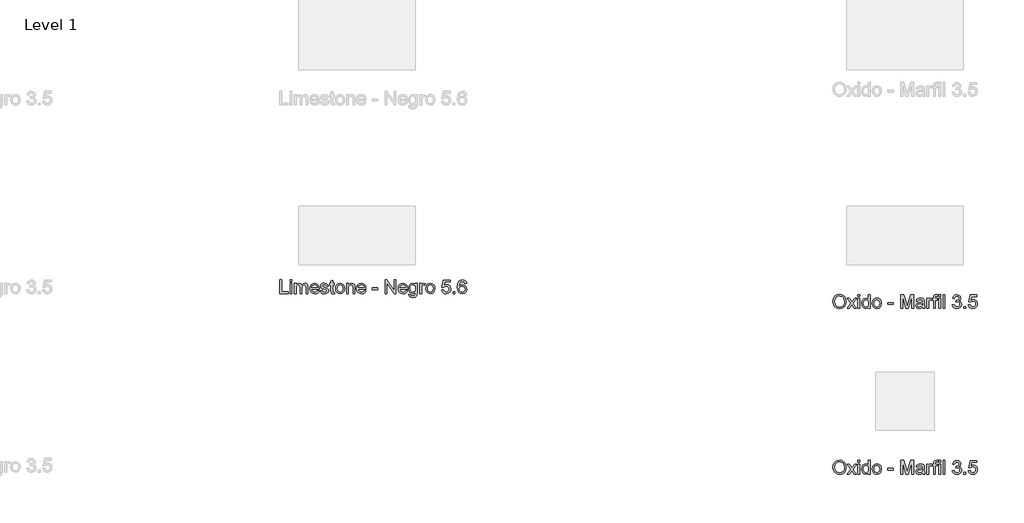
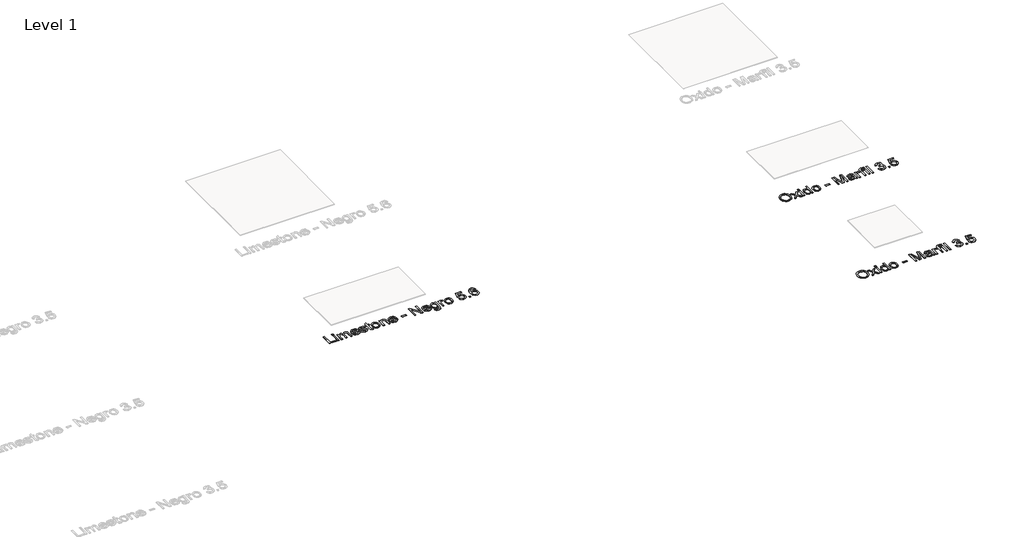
# One storey, part 28 of 80: 3 proxies.
"""IFC4 building model written with IfcOpenShell, lengths in millimetres."""

from ifc_helpers import new_model, si_unit, origin, origin_with_axes, place, context, project, spatial, polyline, outline, extrude, element, save

model = new_model("IFC4")

# Units and contexts
model_context = context("Model", 3, world=origin())
ifc_project = project(units=[si_unit("LENGTHUNIT", "METRE", prefix="MILLI")], contexts=[model_context])

# Site, building, storey
site = spatial("IfcSite", under=ifc_project)
building = spatial("IfcBuilding", under=site)
storey = spatial("IfcBuildingStorey", under=building, Name="Level 1", Elevation=0.0)

# Proxies
placement = place(None, origin())
element("IfcBuildingElementProxy", 1, Name="24\" Arial", ObjectType="24\" Arial", at=placement, inside=storey, context=model_context, shape_type="SweptSolid", body=[
    extrude(outline(polyline([(4916.0008152, -20382.6920446), (4919.9383152, -20356.5646408), (4931.7508152, -20336.7978138), (4949.7868729, -20324.35791), (4972.3950459, -20320.2112754), (4987.8926421, -20322.1583908), (5001.7892767, -20327.9997369), (5013.3277383, -20337.3242561), (5021.7508152, -20349.7208908), (5026.8998536, -20364.5910831), (5028.6161998, -20381.3362754), (5026.8097094, -20398.3050254), (5021.3902383, -20413.3843523), (5012.6570652, -20425.8026215), (5000.909469, -20434.7881985), (4987.1318248, -20440.2401215), (4972.3085075, -20442.0574292), (4956.5729306, -20440.0490158), (4942.596969, -20434.0237754), (4931.0873536, -20424.5261792), (4922.7508152, -20412.1006985), (4917.6883152, -20397.8038235), (4916.0008152, -20382.6920446)]), holes=[polyline([(4930.7700459, -20382.8362754), (4933.7231709, -20401.3194485), (4942.5825459, -20415.4035831), (4955.8986517, -20424.3170446), (4972.221969, -20427.2881985), (4988.7832671, -20424.2881985), (5002.1210075, -20415.2881985), (5010.9154786, -20400.7713715), (5013.846969, -20381.2208908), (5008.8277383, -20356.8458908), (5002.6510556, -20347.6043042), (4994.159469, -20340.7064677), (4972.4815844, -20334.9805061), (4956.5945652, -20337.7389196), (4943.0873536, -20346.01416), (4933.8493729, -20360.7365158), (4930.7700459, -20382.8362754)])]), origin_with_axes(), (0.0, 0.0, 1.0), 2.0),
    extrude(outline(polyline([(5037.846969, -20440.2112754), (5069.4046613, -20396.5958908), (5039.6931229, -20353.4420446), (5057.4623536, -20353.4420446), (5071.7988921, -20374.2112754), (5078.4911998, -20384.0189677), (5084.2892767, -20375.9997369), (5100.6161998, -20353.4420446), (5118.3854306, -20353.4420446), (5087.1738921, -20396.5958908), (5117.2315844, -20440.2112754), (5099.4623536, -20440.2112754), (5081.3758152, -20413.9901215), (5078.0585075, -20409.20166), (5055.6161998, -20440.2112754), (5037.846969, -20440.2112754)])), origin_with_axes(), (0.0, 0.0, 1.0), 2.0),
    extrude(outline(polyline([(5130.1546613, -20336.82666), (5130.1546613, -20322.0574292), (5144.9238921, -20322.0574292), (5144.9238921, -20336.82666), (5130.1546613, -20336.82666)])), origin_with_axes(), (0.0, 0.0, 1.0), 2.0),
    extrude(outline(polyline([(5130.1546613, -20440.2112754), (5130.1546613, -20353.4420446), (5144.9238921, -20353.4420446), (5144.9238921, -20440.2112754), (5130.1546613, -20440.2112754)])), origin_with_axes(), (0.0, 0.0, 1.0), 2.0),
    extrude(outline(polyline([(5220.6161998, -20440.2112754), (5220.6161998, -20426.2785831), (5210.8445652, -20438.1127177), (5197.3373536, -20442.0574292), (5179.0488921, -20436.3458908), (5166.1258152, -20420.4083908), (5161.5392767, -20396.9131985), (5165.7652383, -20373.4035831), (5171.0440844, -20364.0790638), (5178.4286998, -20357.2208908), (5197.2796613, -20351.5958908), (5210.8950459, -20355.6199292), (5220.6161998, -20366.07666), (5220.6161998, -20322.0574292), (5235.3854306, -20322.0574292), (5235.3854306, -20440.2112754), (5220.6161998, -20440.2112754)]), holes=[polyline([(5176.3085075, -20396.8555061), (5177.9743729, -20410.2148811), (5182.971969, -20419.7160831), (5190.2339883, -20425.3951696), (5198.6931229, -20427.2881985), (5207.1486517, -20425.4817081), (5214.2267767, -20420.0622369), (5219.018844, -20410.9288235), (5220.6161998, -20397.9805061), (5218.9899979, -20383.8242561), (5214.1113921, -20374.0093523), (5206.8529786, -20368.2761792), (5198.0873536, -20366.3651215), (5189.5416806, -20368.2004581), (5182.5392767, -20373.7064677), (5177.8661998, -20383.1644004), (5176.3085075, -20396.8555061)])]), origin_with_axes(), (0.0, 0.0, 1.0), 2.0),
    extrude(outline(polyline([(5253.846969, -20396.82666), (5257.0416806, -20375.9059869), (5266.6258152, -20361.20166), (5278.4671613, -20353.9973331), (5292.6450459, -20351.5958908), (5308.1606709, -20354.5201696), (5320.5536998, -20363.2930061), (5328.6774979, -20377.2220927), (5331.3854306, -20395.6151215), (5326.596969, -20421.8939677), (5312.6498536, -20436.76416), (5292.6450459, -20442.0574292), (5276.9419209, -20439.1439677), (5264.5633152, -20430.4035831), (5256.5260556, -20416.1824292), (5253.846969, -20396.82666)]), holes=[polyline([(5268.6161998, -20396.7978138), (5270.3253344, -20410.1644004), (5275.4527383, -20419.6872369), (5283.1690844, -20425.3879581), (5292.6450459, -20427.2881985), (5302.0777383, -20425.3771408), (5309.7796613, -20419.6439677), (5314.9070652, -20409.9949292), (5316.6161998, -20396.3362754), (5314.8962479, -20383.3591119), (5309.7363921, -20373.9660831), (5302.0236517, -20368.2653619), (5292.6450459, -20366.3651215), (5283.1690844, -20368.2581504), (5275.4527383, -20373.9372369), (5270.3253344, -20383.4384388), (5268.6161998, -20396.7978138)])]), origin_with_axes(), (0.0, 0.0, 1.0), 2.0),
    extrude(outline(polyline([(5386.7700459, -20405.1343523), (5386.7700459, -20390.3651215), (5432.9238921, -20390.3651215), (5432.9238921, -20405.1343523), (5386.7700459, -20405.1343523)])), origin_with_axes(), (0.0, 0.0, 1.0), 2.0),
    extrude(outline(polyline([(5497.5392767, -20440.2112754), (5497.5392767, -20322.0574292), (5522.9527383, -20322.0574292), (5547.1258152, -20405.3362754), (5552.0008152, -20422.7305061), (5557.2796613, -20403.8939677), (5581.0488921, -20322.0574292), (5606.4623536, -20322.0574292), (5606.4623536, -20440.2112754), (5591.6931229, -20440.2112754), (5591.6931229, -20336.82666), (5562.0104306, -20440.2112754), (5541.9911998, -20440.2112754), (5512.3085075, -20336.82666), (5512.3085075, -20440.2112754), (5497.5392767, -20440.2112754)])), origin_with_axes(), (0.0, 0.0, 1.0), 2.0),
    extrude(outline(polyline([(5685.846969, -20429.1343523), (5671.5248536, -20439.1439677), (5655.7027383, -20442.0574292), (5643.3601902, -20440.3050254), (5634.2556229, -20435.0478138), (5628.6414402, -20427.0646408), (5626.7700459, -20417.1343523), (5629.596969, -20405.45166), (5637.0248536, -20396.9708908), (5647.3661998, -20392.1247369), (5660.1450459, -20389.9035831), (5685.7604306, -20384.82666), (5685.846969, -20381.5381985), (5681.7796613, -20370.6343523), (5665.4527383, -20366.3651215), (5650.5104306, -20369.2064677), (5643.3854306, -20379.2881985), (5628.6161998, -20377.4420446), (5635.0056229, -20363.0189677), (5647.8710075, -20354.5670446), (5667.3565844, -20351.5958908), (5685.2556229, -20354.2208908), (5695.3661998, -20360.8122369), (5699.8950459, -20370.8362754), (5700.6161998, -20383.7593523), (5700.6161998, -20402.1343523), (5701.3661998, -20427.7930061), (5704.3085075, -20440.2112754), (5689.5392767, -20440.2112754), (5685.846969, -20429.1343523)]), holes=[polyline([(5685.846969, -20399.5958908), (5662.0200459, -20404.1247369), (5649.3133152, -20406.5189677), (5643.5585075, -20410.4131985), (5641.5392767, -20416.0958908), (5645.9383152, -20424.0862754), (5658.846969, -20427.2881985), (5673.7892767, -20423.7545446), (5683.4238921, -20415.20166), (5685.7604306, -20403.7785831), (5685.846969, -20399.5958908)])]), origin_with_axes(), (0.0, 0.0, 1.0), 2.0),
    extrude(outline(polyline([(5720.9238921, -20440.2112754), (5720.9238921, -20353.4420446), (5733.846969, -20353.4420446), (5733.846969, -20366.2785831), (5743.0200459, -20354.45166), (5752.2508152, -20351.5958908), (5767.0777383, -20356.1535831), (5762.1450459, -20369.3939677), (5751.7604306, -20366.3651215), (5743.409469, -20369.2785831), (5738.0873536, -20377.3555061), (5735.6931229, -20394.6055061), (5735.6931229, -20440.2112754), (5720.9238921, -20440.2112754)])), origin_with_axes(), (0.0, 0.0, 1.0), 2.0),
    extrude(outline(polyline([(5780.0008152, -20440.2112754), (5780.0008152, -20368.2112754), (5767.0777383, -20368.2112754), (5767.0777383, -20353.4420446), (5780.0008152, -20353.4420446), (5780.0008152, -20344.70166), (5781.5585075, -20332.3843523), (5789.1161998, -20323.5862754), (5804.0008152, -20320.2112754), (5817.471969, -20321.82666), (5815.3085075, -20335.6728138), (5806.7988921, -20334.9805061), (5797.4960075, -20337.4324292), (5794.7700459, -20346.57666), (5794.7700459, -20353.4420446), (5811.3854306, -20353.4420446), (5811.3854306, -20368.2112754), (5794.7700459, -20368.2112754), (5794.7700459, -20440.2112754), (5780.0008152, -20440.2112754)])), origin_with_axes(), (0.0, 0.0, 1.0), 2.0),
    extrude(outline(polyline([(5824.3085075, -20336.82666), (5824.3085075, -20322.0574292), (5839.0777383, -20322.0574292), (5839.0777383, -20336.82666), (5824.3085075, -20336.82666)])), origin_with_axes(), (0.0, 0.0, 1.0), 2.0),
    extrude(outline(polyline([(5824.3085075, -20440.2112754), (5824.3085075, -20353.4420446), (5839.0777383, -20353.4420446), (5839.0777383, -20440.2112754), (5824.3085075, -20440.2112754)])), origin_with_axes(), (0.0, 0.0, 1.0), 2.0),
    extrude(outline(polyline([(5861.2315844, -20440.2112754), (5861.2315844, -20322.0574292), (5876.0008152, -20322.0574292), (5876.0008152, -20440.2112754), (5861.2315844, -20440.2112754)])), origin_with_axes(), (0.0, 0.0, 1.0), 2.0),
    extrude(outline(polyline([(5940.6161998, -20408.82666), (5955.3854306, -20406.9805061), (5963.534469, -20422.5285831), (5978.7796613, -20427.2881985), (5988.9046613, -20425.6511792), (5996.721969, -20420.7401215), (6001.7195652, -20413.4131985), (6003.3854306, -20404.5285831), (6001.7339883, -20396.0946888), (5996.7796613, -20389.2545446), (5989.2796613, -20384.7220927), (5979.9911998, -20383.2112754), (5969.6354306, -20384.82666), (5971.2796613, -20370.0574292), (5973.6450459, -20370.2305061), (5990.4046613, -20365.9901215), (5995.9863921, -20360.6103138), (5997.846969, -20352.95166), (5992.4527383, -20341.3987754), (5978.5488921, -20336.82666), (5964.471969, -20341.4420446), (5957.2315844, -20355.2881985), (5942.4623536, -20353.4420446), (5946.8109113, -20340.1800254), (5954.5488921, -20330.2785831), (5965.1354306, -20324.1127177), (5978.0296613, -20322.0574292), (5995.8421613, -20326.1103138), (6008.3036998, -20337.1872369), (6012.6161998, -20352.0862754), (6008.5200459, -20365.70166), (5996.4046613, -20375.4805061), (6005.6498536, -20379.2160831), (6012.5008152, -20385.57666), (6016.7411998, -20394.2160831), (6018.1546613, -20404.7881985), (6015.3277383, -20419.1824292), (6006.846969, -20431.2112754), (5994.0464883, -20439.3458908), (5978.2604306, -20442.0574292), (5963.9815844, -20439.7425254), (5952.3565844, -20432.7978138), (5944.2724498, -20422.1752177), (5940.6161998, -20408.82666)])), origin_with_axes(), (0.0, 0.0, 1.0), 2.0),
    extrude(outline(polyline([(6038.4623536, -20440.2112754), (6038.4623536, -20425.4420446), (6053.2315844, -20425.4420446), (6053.2315844, -20440.2112754), (6038.4623536, -20440.2112754)])), origin_with_axes(), (0.0, 0.0, 1.0), 2.0),
    extrude(outline(polyline([(6077.2315844, -20408.82666), (6092.0008152, -20406.9805061), (6099.4431229, -20422.1968523), (6114.8758152, -20427.2881985), (6125.4623536, -20425.5177658), (6133.3950459, -20420.2064677), (6138.3493729, -20411.967285), (6140.0008152, -20401.4131985), (6138.4539402, -20391.4756985), (6133.8133152, -20383.8747369), (6126.0428825, -20379.0502177), (6115.1065844, -20377.4420446), (6102.1402383, -20380.0093523), (6093.846969, -20386.6728138), (6079.0777383, -20384.82666), (6092.0008152, -20323.9035831), (6149.2315844, -20323.9035831), (6149.2315844, -20338.6728138), (6103.9431229, -20338.6728138), (6097.6258152, -20371.2112754), (6108.1762959, -20364.8074292), (6119.2315844, -20362.6728138), (6133.0308633, -20365.3194485), (6144.4863921, -20373.2593523), (6152.1991325, -20385.3603138), (6154.7700459, -20400.4901215), (6152.4551421, -20415.2593523), (6145.5104306, -20427.8939677), (6132.2123536, -20438.5165638), (6114.8181229, -20442.0574292), (6100.3121133, -20439.7821888), (6088.7556229, -20432.9564677), (6080.8337479, -20422.373535), (6077.2315844, -20408.82666)])), origin_with_axes(), (0.0, 0.0, 1.0), 2.0),
])
element("IfcBuildingElementProxy", 2, Name="24\" Arial", ObjectType="24\" Arial", at=placement, inside=storey, context=model_context, shape_type="SweptSolid", body=[
    extrude(outline(polyline([(4916.0008152, -21804.2596438), (4919.9383152, -21778.1322399), (4931.7508152, -21758.365413), (4949.7868729, -21745.9255092), (4972.3950459, -21741.7788746), (4987.8926421, -21743.7259899), (5001.7892767, -21749.5673361), (5013.3277383, -21758.8918553), (5021.7508152, -21771.2884899), (5026.8998536, -21786.1586823), (5028.6161998, -21802.9038746), (5026.8097094, -21819.8726246), (5021.3902383, -21834.9519515), (5012.6570652, -21847.3702207), (5000.909469, -21856.3557976), (4987.1318248, -21861.8077207), (4972.3085075, -21863.6250284), (4956.5729306, -21861.6166149), (4942.596969, -21855.5913746), (4931.0873536, -21846.0937784), (4922.7508152, -21833.6682976), (4917.6883152, -21819.3714226), (4916.0008152, -21804.2596438)]), holes=[polyline([(4930.7700459, -21804.4038746), (4933.7231709, -21822.8870476), (4942.5825459, -21836.9711823), (4955.8986517, -21845.8846438), (4972.221969, -21848.8557976), (4988.7832671, -21845.8557976), (5002.1210075, -21836.8557976), (5010.9154786, -21822.3389707), (5013.846969, -21802.7884899), (5008.8277383, -21778.4134899), (5002.6510556, -21769.1719034), (4994.159469, -21762.2740669), (4972.4815844, -21756.5481053), (4956.5945652, -21759.3065188), (4943.0873536, -21767.5817592), (4933.8493729, -21782.3041149), (4930.7700459, -21804.4038746)])]), origin_with_axes(), (0.0, 0.0, 1.0), 2.0),
    extrude(outline(polyline([(5037.846969, -21861.7788746), (5069.4046613, -21818.1634899), (5039.6931229, -21775.0096438), (5057.4623536, -21775.0096438), (5071.7988921, -21795.7788746), (5078.4911998, -21805.5865669), (5084.2892767, -21797.5673361), (5100.6161998, -21775.0096438), (5118.3854306, -21775.0096438), (5087.1738921, -21818.1634899), (5117.2315844, -21861.7788746), (5099.4623536, -21861.7788746), (5081.3758152, -21835.5577207), (5078.0585075, -21830.7692592), (5055.6161998, -21861.7788746), (5037.846969, -21861.7788746)])), origin_with_axes(), (0.0, 0.0, 1.0), 2.0),
    extrude(outline(polyline([(5130.1546613, -21758.3942592), (5130.1546613, -21743.6250284), (5144.9238921, -21743.6250284), (5144.9238921, -21758.3942592), (5130.1546613, -21758.3942592)])), origin_with_axes(), (0.0, 0.0, 1.0), 2.0),
    extrude(outline(polyline([(5130.1546613, -21861.7788746), (5130.1546613, -21775.0096438), (5144.9238921, -21775.0096438), (5144.9238921, -21861.7788746), (5130.1546613, -21861.7788746)])), origin_with_axes(), (0.0, 0.0, 1.0), 2.0),
    extrude(outline(polyline([(5220.6161998, -21861.7788746), (5220.6161998, -21847.8461823), (5210.8445652, -21859.6803169), (5197.3373536, -21863.6250284), (5179.0488921, -21857.9134899), (5166.1258152, -21841.9759899), (5161.5392767, -21818.4807976), (5165.7652383, -21794.9711823), (5171.0440844, -21785.646663), (5178.4286998, -21778.7884899), (5197.2796613, -21773.1634899), (5210.8950459, -21777.1875284), (5220.6161998, -21787.6442592), (5220.6161998, -21743.6250284), (5235.3854306, -21743.6250284), (5235.3854306, -21861.7788746), (5220.6161998, -21861.7788746)]), holes=[polyline([(5176.3085075, -21818.4231053), (5177.9743729, -21831.7824803), (5182.971969, -21841.2836823), (5190.2339883, -21846.9627688), (5198.6931229, -21848.8557976), (5207.1486517, -21847.0493073), (5214.2267767, -21841.6298361), (5219.018844, -21832.4964226), (5220.6161998, -21819.5481053), (5218.9899979, -21805.3918553), (5214.1113921, -21795.5769515), (5206.8529786, -21789.8437784), (5198.0873536, -21787.9327207), (5189.5416806, -21789.7680573), (5182.5392767, -21795.2740669), (5177.8661998, -21804.7319996), (5176.3085075, -21818.4231053)])]), origin_with_axes(), (0.0, 0.0, 1.0), 2.0),
    extrude(outline(polyline([(5253.846969, -21818.3942592), (5257.0416806, -21797.4735861), (5266.6258152, -21782.7692592), (5278.4671613, -21775.5649323), (5292.6450459, -21773.1634899), (5308.1606709, -21776.0877688), (5320.5536998, -21784.8606053), (5328.6774979, -21798.7896919), (5331.3854306, -21817.1827207), (5326.596969, -21843.4615669), (5312.6498536, -21858.3317592), (5292.6450459, -21863.6250284), (5276.9419209, -21860.7115669), (5264.5633152, -21851.9711823), (5256.5260556, -21837.7500284), (5253.846969, -21818.3942592)]), holes=[polyline([(5268.6161998, -21818.365413), (5270.3253344, -21831.7319996), (5275.4527383, -21841.2548361), (5283.1690844, -21846.9555573), (5292.6450459, -21848.8557976), (5302.0777383, -21846.9447399), (5309.7796613, -21841.2115669), (5314.9070652, -21831.5625284), (5316.6161998, -21817.9038746), (5314.8962479, -21804.9267111), (5309.7363921, -21795.5336823), (5302.0236517, -21789.8329611), (5292.6450459, -21787.9327207), (5283.1690844, -21789.8257496), (5275.4527383, -21795.5048361), (5270.3253344, -21805.006038), (5268.6161998, -21818.365413)])]), origin_with_axes(), (0.0, 0.0, 1.0), 2.0),
    extrude(outline(polyline([(5386.7700459, -21826.7019515), (5386.7700459, -21811.9327207), (5432.9238921, -21811.9327207), (5432.9238921, -21826.7019515), (5386.7700459, -21826.7019515)])), origin_with_axes(), (0.0, 0.0, 1.0), 2.0),
    extrude(outline(polyline([(5497.5392767, -21861.7788746), (5497.5392767, -21743.6250284), (5522.9527383, -21743.6250284), (5547.1258152, -21826.9038746), (5552.0008152, -21844.2981053), (5557.2796613, -21825.4615669), (5581.0488921, -21743.6250284), (5606.4623536, -21743.6250284), (5606.4623536, -21861.7788746), (5591.6931229, -21861.7788746), (5591.6931229, -21758.3942592), (5562.0104306, -21861.7788746), (5541.9911998, -21861.7788746), (5512.3085075, -21758.3942592), (5512.3085075, -21861.7788746), (5497.5392767, -21861.7788746)])), origin_with_axes(), (0.0, 0.0, 1.0), 2.0),
    extrude(outline(polyline([(5685.846969, -21850.7019515), (5671.5248536, -21860.7115669), (5655.7027383, -21863.6250284), (5643.3601902, -21861.8726246), (5634.2556229, -21856.615413), (5628.6414402, -21848.6322399), (5626.7700459, -21838.7019515), (5629.596969, -21827.0192592), (5637.0248536, -21818.5384899), (5647.3661998, -21813.6923361), (5660.1450459, -21811.4711823), (5685.7604306, -21806.3942592), (5685.846969, -21803.1057976), (5681.7796613, -21792.2019515), (5665.4527383, -21787.9327207), (5650.5104306, -21790.7740669), (5643.3854306, -21800.8557976), (5628.6161998, -21799.0096438), (5635.0056229, -21784.5865669), (5647.8710075, -21776.1346438), (5667.3565844, -21773.1634899), (5685.2556229, -21775.7884899), (5695.3661998, -21782.3798361), (5699.8950459, -21792.4038746), (5700.6161998, -21805.3269515), (5700.6161998, -21823.7019515), (5701.3661998, -21849.3606053), (5704.3085075, -21861.7788746), (5689.5392767, -21861.7788746), (5685.846969, -21850.7019515)]), holes=[polyline([(5685.846969, -21821.1634899), (5662.0200459, -21825.6923361), (5649.3133152, -21828.0865669), (5643.5585075, -21831.9807976), (5641.5392767, -21837.6634899), (5645.9383152, -21845.6538746), (5658.846969, -21848.8557976), (5673.7892767, -21845.3221438), (5683.4238921, -21836.7692592), (5685.7604306, -21825.3461823), (5685.846969, -21821.1634899)])]), origin_with_axes(), (0.0, 0.0, 1.0), 2.0),
    extrude(outline(polyline([(5720.9238921, -21861.7788746), (5720.9238921, -21775.0096438), (5733.846969, -21775.0096438), (5733.846969, -21787.8461823), (5743.0200459, -21776.0192592), (5752.2508152, -21773.1634899), (5767.0777383, -21777.7211823), (5762.1450459, -21790.9615669), (5751.7604306, -21787.9327207), (5743.409469, -21790.8461823), (5738.0873536, -21798.9231053), (5735.6931229, -21816.1731053), (5735.6931229, -21861.7788746), (5720.9238921, -21861.7788746)])), origin_with_axes(), (0.0, 0.0, 1.0), 2.0),
    extrude(outline(polyline([(5780.0008152, -21861.7788746), (5780.0008152, -21789.7788746), (5767.0777383, -21789.7788746), (5767.0777383, -21775.0096438), (5780.0008152, -21775.0096438), (5780.0008152, -21766.2692592), (5781.5585075, -21753.9519515), (5789.1161998, -21745.1538746), (5804.0008152, -21741.7788746), (5817.471969, -21743.3942592), (5815.3085075, -21757.240413), (5806.7988921, -21756.5481053), (5797.4960075, -21759.0000284), (5794.7700459, -21768.1442592), (5794.7700459, -21775.0096438), (5811.3854306, -21775.0096438), (5811.3854306, -21789.7788746), (5794.7700459, -21789.7788746), (5794.7700459, -21861.7788746), (5780.0008152, -21861.7788746)])), origin_with_axes(), (0.0, 0.0, 1.0), 2.0),
    extrude(outline(polyline([(5824.3085075, -21758.3942592), (5824.3085075, -21743.6250284), (5839.0777383, -21743.6250284), (5839.0777383, -21758.3942592), (5824.3085075, -21758.3942592)])), origin_with_axes(), (0.0, 0.0, 1.0), 2.0),
    extrude(outline(polyline([(5824.3085075, -21861.7788746), (5824.3085075, -21775.0096438), (5839.0777383, -21775.0096438), (5839.0777383, -21861.7788746), (5824.3085075, -21861.7788746)])), origin_with_axes(), (0.0, 0.0, 1.0), 2.0),
    extrude(outline(polyline([(5861.2315844, -21861.7788746), (5861.2315844, -21743.6250284), (5876.0008152, -21743.6250284), (5876.0008152, -21861.7788746), (5861.2315844, -21861.7788746)])), origin_with_axes(), (0.0, 0.0, 1.0), 2.0),
    extrude(outline(polyline([(5940.6161998, -21830.3942592), (5955.3854306, -21828.5481053), (5963.534469, -21844.0961823), (5978.7796613, -21848.8557976), (5988.9046613, -21847.2187784), (5996.721969, -21842.3077207), (6001.7195652, -21834.9807976), (6003.3854306, -21826.0961823), (6001.7339883, -21817.662288), (5996.7796613, -21810.8221438), (5989.2796613, -21806.2896919), (5979.9911998, -21804.7788746), (5969.6354306, -21806.3942592), (5971.2796613, -21791.6250284), (5973.6450459, -21791.7981053), (5990.4046613, -21787.5577207), (5995.9863921, -21782.177913), (5997.846969, -21774.5192592), (5992.4527383, -21762.9663746), (5978.5488921, -21758.3942592), (5964.471969, -21763.0096438), (5957.2315844, -21776.8557976), (5942.4623536, -21775.0096438), (5946.8109113, -21761.7476246), (5954.5488921, -21751.8461823), (5965.1354306, -21745.6803169), (5978.0296613, -21743.6250284), (5995.8421613, -21747.677913), (6008.3036998, -21758.7548361), (6012.6161998, -21773.6538746), (6008.5200459, -21787.2692592), (5996.4046613, -21797.0481053), (6005.6498536, -21800.7836823), (6012.5008152, -21807.1442592), (6016.7411998, -21815.7836823), (6018.1546613, -21826.3557976), (6015.3277383, -21840.7500284), (6006.846969, -21852.7788746), (5994.0464883, -21860.9134899), (5978.2604306, -21863.6250284), (5963.9815844, -21861.3101246), (5952.3565844, -21854.365413), (5944.2724498, -21843.7428169), (5940.6161998, -21830.3942592)])), origin_with_axes(), (0.0, 0.0, 1.0), 2.0),
    extrude(outline(polyline([(6038.4623536, -21861.7788746), (6038.4623536, -21847.0096438), (6053.2315844, -21847.0096438), (6053.2315844, -21861.7788746), (6038.4623536, -21861.7788746)])), origin_with_axes(), (0.0, 0.0, 1.0), 2.0),
    extrude(outline(polyline([(6077.2315844, -21830.3942592), (6092.0008152, -21828.5481053), (6099.4431229, -21843.7644515), (6114.8758152, -21848.8557976), (6125.4623536, -21847.0853649), (6133.3950459, -21841.7740669), (6138.3493729, -21833.5348842), (6140.0008152, -21822.9807976), (6138.4539402, -21813.0432976), (6133.8133152, -21805.4423361), (6126.0428825, -21800.6178169), (6115.1065844, -21799.0096438), (6102.1402383, -21801.5769515), (6093.846969, -21808.240413), (6079.0777383, -21806.3942592), (6092.0008152, -21745.4711823), (6149.2315844, -21745.4711823), (6149.2315844, -21760.240413), (6103.9431229, -21760.240413), (6097.6258152, -21792.7788746), (6108.1762959, -21786.3750284), (6119.2315844, -21784.240413), (6133.0308633, -21786.8870476), (6144.4863921, -21794.8269515), (6152.1991325, -21806.927913), (6154.7700459, -21822.0577207), (6152.4551421, -21836.8269515), (6145.5104306, -21849.4615669), (6132.2123536, -21860.084163), (6114.8181229, -21863.6250284), (6100.3121133, -21861.349788), (6088.7556229, -21854.5240669), (6080.8337479, -21843.9411342), (6077.2315844, -21830.3942592)])), origin_with_axes(), (0.0, 0.0, 1.0), 2.0),
])
element("IfcBuildingElementProxy", 3, Name="24\" Arial", ObjectType="24\" Arial", at=placement, inside=storey, context=model_context, shape_type="SweptSolid", body=[
    extrude(outline(polyline([(173.5392767, -20313.2188289), (173.5392767, -20195.0649827), (188.3085075, -20195.0649827), (188.3085075, -20298.4495981), (247.3854306, -20298.4495981), (247.3854306, -20313.2188289), (173.5392767, -20313.2188289)])), origin_with_axes(), (0.0, 0.0, 1.0), 2.0),
    extrude(outline(polyline([(262.1546613, -20209.8342135), (262.1546613, -20195.0649827), (276.9238921, -20195.0649827), (276.9238921, -20209.8342135), (262.1546613, -20209.8342135)])), origin_with_axes(), (0.0, 0.0, 1.0), 2.0),
    extrude(outline(polyline([(262.1546613, -20313.2188289), (262.1546613, -20226.4495981), (276.9238921, -20226.4495981), (276.9238921, -20313.2188289), (262.1546613, -20313.2188289)])), origin_with_axes(), (0.0, 0.0, 1.0), 2.0),
    extrude(outline(polyline([(299.0777383, -20313.2188289), (299.0777383, -20226.4495981), (313.846969, -20226.4495981), (313.846969, -20240.7284443), (324.0008152, -20229.0313289), (338.4527383, -20224.6034443), (353.2508152, -20229.1178673), (361.3854306, -20241.7669058), (372.909469, -20228.8943097), (387.4623536, -20224.6034443), (398.5645171, -20226.3883), (406.7748536, -20231.7428673), (411.8481709, -20240.811377), (413.5392767, -20253.7380597), (413.5392767, -20313.2188289), (398.7700459, -20313.2188289), (398.7700459, -20260.0842135), (397.3998536, -20247.7524827), (392.4383152, -20241.6803673), (384.0008152, -20239.372675), (375.9996133, -20240.8510404), (369.4767767, -20245.2861366), (365.1390363, -20252.9808481), (363.6931229, -20264.2380597), (363.6931229, -20313.2188289), (348.9238921, -20313.2188289), (348.9238921, -20258.4399827), (345.5056229, -20244.1322904), (334.2988921, -20239.372675), (323.3661998, -20242.545752), (316.096969, -20251.8342135), (313.846969, -20269.4592135), (313.846969, -20313.2188289), (299.0777383, -20313.2188289)])), origin_with_axes(), (0.0, 0.0, 1.0), 2.0),
    extrude(outline(polyline([(496.4431229, -20287.372675), (510.9238921, -20289.2188289), (505.706344, -20300.1298866), (497.3806229, -20308.2861366), (486.1342286, -20313.3702712), (472.1546613, -20315.0649827), (454.8253344, -20312.1407039), (441.4911998, -20303.3678673), (432.9887959, -20289.3161847), (430.1546613, -20270.5553673), (433.0176421, -20251.1635404), (441.6065844, -20236.6611366), (454.7604306, -20227.6178673), (471.3181229, -20224.6034443), (487.3601902, -20227.6106558), (500.1786998, -20236.6322904), (508.5837479, -20251.1058481), (511.3854306, -20270.4688289), (511.2988921, -20274.4495981), (444.9238921, -20274.4495981), (447.4803825, -20285.5048866), (453.4190844, -20293.6322904), (461.9899979, -20298.6298866), (472.4431229, -20300.295752), (486.9238921, -20297.2092135), (496.4431229, -20287.372675)]), holes=[polyline([(444.9238921, -20259.6803673), (496.6161998, -20259.6803673), (490.7027383, -20246.295752), (482.0921613, -20241.1034443), (471.2604306, -20239.372675), (453.0729306, -20244.8967135), (447.3505748, -20251.3546462), (444.9238921, -20259.6803673)])]), origin_with_axes(), (0.0, 0.0, 1.0), 2.0),
    extrude(outline(polyline([(520.6161998, -20287.372675), (535.3854306, -20285.5265212), (542.221969, -20296.4880597), (557.8854306, -20300.295752), (572.9431229, -20296.8053673), (577.846969, -20288.6130597), (572.9142767, -20281.9784443), (557.7123536, -20277.7669058), (535.471969, -20270.5409443), (525.7652383, -20262.1034443), (522.4623536, -20250.1899827), (525.1161998, -20239.185175), (532.3565844, -20230.7765212), (541.7460075, -20226.4063289), (554.4527383, -20224.6034443), (572.4238921, -20227.5024827), (583.846969, -20235.3486366), (588.9238921, -20248.6034443), (574.1546613, -20250.4495981), (568.6017767, -20242.3005597), (555.6065844, -20239.372675), (541.471969, -20242.170752), (537.2315844, -20248.6899827), (538.9911998, -20252.9880597), (544.5008152, -20256.247675), (557.221969, -20259.3919058), (578.8998536, -20266.3438289), (588.9671613, -20274.2188289), (592.6161998, -20287.0553673), (588.3325459, -20301.1899827), (575.971969, -20311.4447904), (557.6835075, -20315.0649827), (542.7916806, -20313.3197904), (531.9238921, -20308.0842135), (524.6690844, -20299.4159443), (520.6161998, -20287.372675)])), origin_with_axes(), (0.0, 0.0, 1.0), 2.0),
    extrude(outline(polyline([(640.6161998, -20300.9015212), (642.4623536, -20313.6515212), (631.4142767, -20315.0649827), (619.0392767, -20312.6130597), (612.8661998, -20306.1803673), (611.0777383, -20289.420752), (611.0777383, -20241.2188289), (600.0008152, -20241.2188289), (600.0008152, -20226.4495981), (611.0777383, -20226.4495981), (611.0777383, -20205.3630597), (625.846969, -20196.6803673), (625.846969, -20226.4495981), (640.6161998, -20226.4495981), (640.6161998, -20241.2188289), (625.846969, -20241.2188289), (625.846969, -20288.9880597), (626.6258152, -20296.6034443), (629.1498536, -20299.3005597), (634.1835075, -20300.295752), (640.6161998, -20300.9015212)])), origin_with_axes(), (0.0, 0.0, 1.0), 2.0),
    extrude(outline(polyline([(651.6931229, -20269.8342135), (654.8878344, -20248.9135404), (664.471969, -20234.2092135), (676.3133152, -20227.0048866), (690.4911998, -20224.6034443), (706.0068248, -20227.5277231), (718.3998536, -20236.3005597), (726.5236517, -20250.2296462), (729.2315844, -20268.622675), (724.4431229, -20294.9015212), (710.4960075, -20309.7717135), (690.4911998, -20315.0649827), (674.7880748, -20312.1515212), (662.409469, -20303.4111366), (654.3722094, -20289.1899827), (651.6931229, -20269.8342135)]), holes=[polyline([(666.4623536, -20269.8053673), (668.1714883, -20283.1719539), (673.2988921, -20292.6947904), (681.0152383, -20298.3955116), (690.4911998, -20300.295752), (699.9238921, -20298.3846943), (707.6258152, -20292.6515212), (712.753219, -20283.0024827), (714.4623536, -20269.3438289), (712.7424017, -20256.3666654), (707.5825459, -20246.9736366), (699.8698056, -20241.2729154), (690.4911998, -20239.372675), (681.0152383, -20241.2657039), (673.2988921, -20246.9447904), (668.1714883, -20256.4459923), (666.4623536, -20269.8053673)])]), origin_with_axes(), (0.0, 0.0, 1.0), 2.0),
    extrude(outline(polyline([(745.846969, -20313.2188289), (745.846969, -20226.4495981), (760.6161998, -20226.4495981), (760.6161998, -20238.5649827), (771.909469, -20228.0938289), (787.3277383, -20224.6034443), (801.2748536, -20227.4159443), (810.7940844, -20234.8005597), (815.221969, -20245.6611366), (816.0008152, -20259.9399827), (816.0008152, -20313.2188289), (801.2315844, -20313.2188289), (801.2315844, -20261.9303673), (799.5296613, -20248.8630597), (793.5152383, -20241.9544058), (783.3758152, -20239.372675), (767.3517767, -20245.170752), (762.300094, -20253.5721943), (760.6161998, -20267.1803673), (760.6161998, -20313.2188289), (745.846969, -20313.2188289)])), origin_with_axes(), (0.0, 0.0, 1.0), 2.0),
    extrude(outline(polyline([(897.0585075, -20287.372675), (911.5392767, -20289.2188289), (906.3217286, -20300.1298866), (897.9960075, -20308.2861366), (886.7496133, -20313.3702712), (872.7700459, -20315.0649827), (855.440719, -20312.1407039), (842.1065844, -20303.3678673), (833.6041806, -20289.3161847), (830.7700459, -20270.5553673), (833.6330267, -20251.1635404), (842.221969, -20236.6611366), (855.3758152, -20227.6178673), (871.9335075, -20224.6034443), (887.9755748, -20227.6106558), (900.7940844, -20236.6322904), (909.1991325, -20251.1058481), (912.0008152, -20270.4688289), (911.9142767, -20274.4495981), (845.5392767, -20274.4495981), (848.0957671, -20285.5048866), (854.034469, -20293.6322904), (862.6053825, -20298.6298866), (873.0585075, -20300.295752), (887.5392767, -20297.2092135), (897.0585075, -20287.372675)]), holes=[polyline([(845.5392767, -20259.6803673), (897.2315844, -20259.6803673), (891.3181229, -20246.295752), (882.7075459, -20241.1034443), (871.8758152, -20239.372675), (853.6883152, -20244.8967135), (847.9659594, -20251.3546462), (845.5392767, -20259.6803673)])]), origin_with_axes(), (0.0, 0.0, 1.0), 2.0),
    extrude(outline(polyline([(965.5392767, -20278.1419058), (965.5392767, -20263.372675), (1011.6931229, -20263.372675), (1011.6931229, -20278.1419058), (965.5392767, -20278.1419058)])), origin_with_axes(), (0.0, 0.0, 1.0), 2.0),
    extrude(outline(polyline([(1076.3085075, -20313.2188289), (1076.3085075, -20195.0649827), (1092.1161998, -20195.0649827), (1153.846969, -20288.670752), (1153.846969, -20195.0649827), (1168.6161998, -20195.0649827), (1168.6161998, -20313.2188289), (1152.8085075, -20313.2188289), (1091.0777383, -20219.5842135), (1091.0777383, -20313.2188289), (1076.3085075, -20313.2188289)])), origin_with_axes(), (0.0, 0.0, 1.0), 2.0),
    extrude(outline(polyline([(1253.3661998, -20287.372675), (1267.846969, -20289.2188289), (1262.6294209, -20300.1298866), (1254.3036998, -20308.2861366), (1243.0573056, -20313.3702712), (1229.0777383, -20315.0649827), (1211.7484113, -20312.1407039), (1198.4142767, -20303.3678673), (1189.9118729, -20289.3161847), (1187.0777383, -20270.5553673), (1189.940719, -20251.1635404), (1198.5296613, -20236.6611366), (1211.6835075, -20227.6178673), (1228.2411998, -20224.6034443), (1244.2832671, -20227.6106558), (1257.1017767, -20236.6322904), (1265.5068248, -20251.1058481), (1268.3085075, -20270.4688289), (1268.221969, -20274.4495981), (1201.846969, -20274.4495981), (1204.4034594, -20285.5048866), (1210.3421613, -20293.6322904), (1218.9130748, -20298.6298866), (1229.3661998, -20300.295752), (1243.846969, -20297.2092135), (1253.3661998, -20287.372675)]), holes=[polyline([(1201.846969, -20259.6803673), (1253.5392767, -20259.6803673), (1247.6258152, -20246.295752), (1239.0152383, -20241.1034443), (1228.1835075, -20239.372675), (1209.9960075, -20244.8967135), (1204.2736517, -20251.3546462), (1201.846969, -20259.6803673)])]), origin_with_axes(), (0.0, 0.0, 1.0), 2.0),
    extrude(outline(polyline([(1279.3854306, -20320.6034443), (1294.1546613, -20322.4495981), (1298.9431229, -20330.2380597), (1313.2796613, -20333.5265212), (1328.3950459, -20329.8053673), (1335.6065844, -20319.3630597), (1336.6161998, -20302.1419058), (1326.2171613, -20310.4495981), (1313.5392767, -20313.2188289), (1298.3121133, -20309.9952712), (1286.9575459, -20300.3245981), (1279.893844, -20286.1467135), (1277.5392767, -20269.4015212), (1281.7652383, -20246.5120981), (1293.9960075, -20230.3149827), (1312.8181229, -20224.6034443), (1325.9936036, -20227.8342135), (1336.6161998, -20237.5265212), (1336.6161998, -20226.4495981), (1351.3854306, -20226.4495981), (1351.3854306, -20301.3630597), (1347.346969, -20330.0505597), (1334.5536998, -20343.3919058), (1312.9911998, -20348.295752), (1299.2496133, -20346.5685885), (1288.4286998, -20341.3870981), (1281.487594, -20332.7368577), (1279.3854306, -20320.6034443)]), holes=[polyline([(1292.3085075, -20268.3919058), (1293.8842286, -20281.9387808), (1298.6113921, -20291.2524827), (1305.7183633, -20296.6503193), (1314.4335075, -20298.4495981), (1323.0837479, -20296.6611366), (1330.2267767, -20291.295752), (1335.018844, -20282.1010404), (1336.6161998, -20268.8245981), (1334.971969, -20256.0205116), (1330.0392767, -20246.8005597), (1322.7916806, -20241.2296462), (1314.2027383, -20239.372675), (1305.768844, -20241.2008), (1298.6979306, -20246.685175), (1293.9058633, -20255.7681077), (1292.3085075, -20268.3919058)])]), origin_with_axes(), (0.0, 0.0, 1.0), 2.0),
    extrude(outline(polyline([(1373.5392767, -20313.2188289), (1373.5392767, -20226.4495981), (1386.4623536, -20226.4495981), (1386.4623536, -20239.2861366), (1395.6354306, -20227.4592135), (1404.8661998, -20224.6034443), (1419.6931229, -20229.1611366), (1414.7604306, -20242.4015212), (1404.3758152, -20239.372675), (1396.0248536, -20242.2861366), (1390.7027383, -20250.3630597), (1388.3085075, -20267.6130597), (1388.3085075, -20313.2188289), (1373.5392767, -20313.2188289)])), origin_with_axes(), (0.0, 0.0, 1.0), 2.0),
    extrude(outline(polyline([(1425.2315844, -20269.8342135), (1428.4262959, -20248.9135404), (1438.0104306, -20234.2092135), (1449.8517767, -20227.0048866), (1464.0296613, -20224.6034443), (1479.5452863, -20227.5277231), (1491.9383152, -20236.3005597), (1500.0621133, -20250.2296462), (1502.7700459, -20268.622675), (1497.9815844, -20294.9015212), (1484.034469, -20309.7717135), (1464.0296613, -20315.0649827), (1448.3265363, -20312.1515212), (1435.9479306, -20303.4111366), (1427.9106709, -20289.1899827), (1425.2315844, -20269.8342135)]), holes=[polyline([(1440.0008152, -20269.8053673), (1441.7099498, -20283.1719539), (1446.8373536, -20292.6947904), (1454.5536998, -20298.3955116), (1464.0296613, -20300.295752), (1473.4623536, -20298.3846943), (1481.1642767, -20292.6515212), (1486.2916806, -20283.0024827), (1488.0008152, -20269.3438289), (1486.2808633, -20256.3666654), (1481.1210075, -20246.9736366), (1473.4082671, -20241.2729154), (1464.0296613, -20239.372675), (1454.5536998, -20241.2657039), (1446.8373536, -20246.9447904), (1441.7099498, -20256.4459923), (1440.0008152, -20269.8053673)])]), origin_with_axes(), (0.0, 0.0, 1.0), 2.0),
    extrude(outline(polyline([(1561.846969, -20281.8342135), (1576.6161998, -20279.9880597), (1584.0585075, -20295.2044058), (1599.4911998, -20300.295752), (1610.0777383, -20298.5253193), (1618.0104306, -20293.2140212), (1622.9647575, -20284.9748385), (1624.6161998, -20274.420752), (1623.0693248, -20264.483252), (1618.4286998, -20256.8822904), (1610.6582671, -20252.0577712), (1599.721969, -20250.4495981), (1586.7556229, -20253.0169058), (1578.4623536, -20259.6803673), (1563.6931229, -20257.8342135), (1576.6161998, -20196.9111366), (1633.846969, -20196.9111366), (1633.846969, -20211.6803673), (1588.5585075, -20211.6803673), (1582.2411998, -20244.2188289), (1592.7916806, -20237.8149827), (1603.846969, -20235.6803673), (1617.6462479, -20238.327002), (1629.1017767, -20246.2669058), (1636.8145171, -20258.3678673), (1639.3854306, -20273.497675), (1637.0705267, -20288.2669058), (1630.1258152, -20300.9015212), (1616.8277383, -20311.5241173), (1599.4335075, -20315.0649827), (1584.9274979, -20312.7897423), (1573.3710075, -20305.9640212), (1565.4491325, -20295.3810885), (1561.846969, -20281.8342135)])), origin_with_axes(), (0.0, 0.0, 1.0), 2.0),
    extrude(outline(polyline([(1659.6931229, -20313.2188289), (1659.6931229, -20298.4495981), (1674.4623536, -20298.4495981), (1674.4623536, -20313.2188289), (1659.6931229, -20313.2188289)])), origin_with_axes(), (0.0, 0.0, 1.0), 2.0),
    extrude(outline(polyline([(1774.1546613, -20226.4495981), (1759.3854306, -20228.295752), (1753.7892767, -20215.9784443), (1747.0897575, -20211.3702712), (1738.9911998, -20209.8342135), (1725.6642767, -20213.4111366), (1715.5825459, -20226.8390212), (1711.3854306, -20253.1611366), (1724.409469, -20241.3774827), (1740.5488921, -20237.5265212), (1754.1931229, -20240.1587327), (1765.6450459, -20248.0553673), (1773.4118729, -20260.1202712), (1776.0008152, -20275.2572904), (1771.1258152, -20295.6370981), (1757.7123536, -20310.060175), (1738.3565844, -20315.0649827), (1721.6005748, -20311.747675), (1708.2556229, -20301.795752), (1699.5260556, -20284.2284443), (1696.6161998, -20258.0649827), (1699.846969, -20228.6491173), (1709.5392767, -20208.5361366), (1722.7724498, -20198.4327712), (1739.9142767, -20195.0649827), (1752.8734113, -20197.1491173), (1763.2508152, -20203.4015212), (1770.5200459, -20213.3318097), (1774.1546613, -20226.4495981)]), holes=[polyline([(1711.3854306, -20275.0265212), (1714.8036998, -20287.8197904), (1723.8902383, -20297.108252), (1737.2027383, -20300.295752), (1746.9491325, -20298.6443097), (1754.6113921, -20293.6899827), (1759.5765363, -20285.9015212), (1761.2315844, -20275.747675), (1759.5981709, -20266.0012808), (1754.6979306, -20258.5697904), (1746.9058633, -20253.8642616), (1736.596969, -20252.295752), (1726.8649979, -20253.8642616), (1718.7267767, -20258.5697904), (1713.2207671, -20265.8209923), (1711.3854306, -20275.0265212)])]), origin_with_axes(), (0.0, 0.0, 1.0), 2.0),
])

save(model, "model.ifc")
